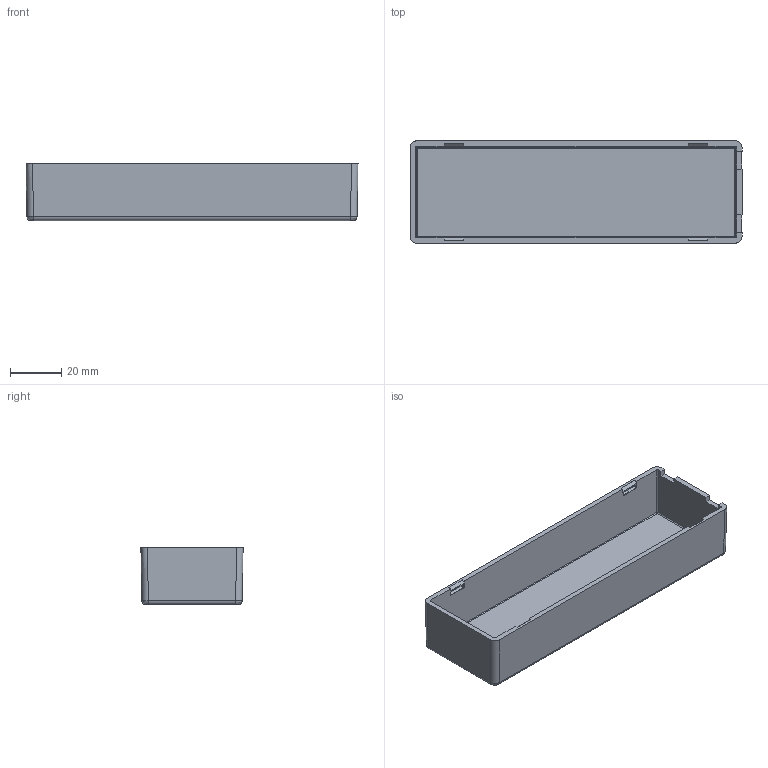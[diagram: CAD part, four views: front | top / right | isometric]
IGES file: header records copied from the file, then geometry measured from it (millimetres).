
Global section: file name: No Iges File Name specified; native system: Autodesk Inventor 2011; preprocessor: AutoDesk Inventor Iges Exporter R2011; author: tcook; date: 20101025.113455; units: inch
Bounding box: 129.54 x 39.88 x 22.35 mm (x, y, z)
Volume: 23459.6 mm3; surface area: 23763.4 mm2
Topology: 1 solids, 1 shells, 94 faces, 232 edges, 144 vertices
Faces by surface type: plane 36, bspline 34, revolution 16, cylinder 8
